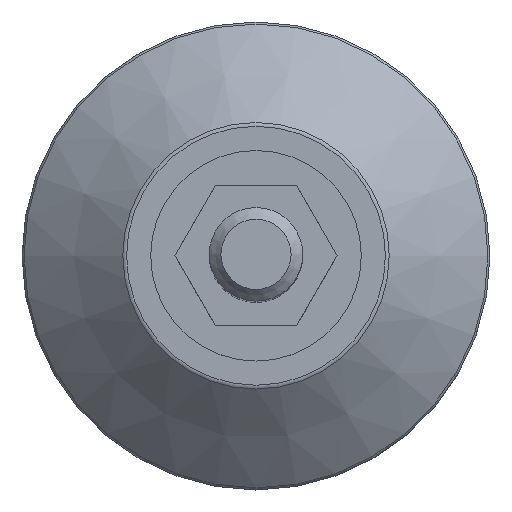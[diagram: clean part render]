
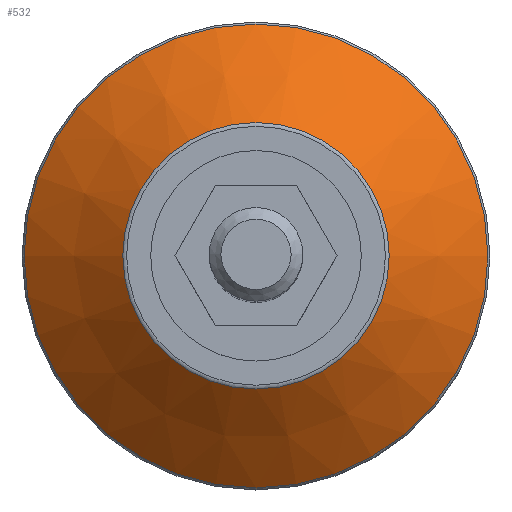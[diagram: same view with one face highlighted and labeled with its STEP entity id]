
A CAD part, top view. The second image highlights one B-rep face of the part: STEP entity #532.
In plain terms, the highlighted conical face has half-angle 49.399 degrees and reference radius 31.216 mm.
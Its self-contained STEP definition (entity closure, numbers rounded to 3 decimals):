
#85=FACE_BOUND('',#202,.T.);
#105=CONICAL_SURFACE('',#617,31.216,49.399);
#132=FACE_OUTER_BOUND('',#201,.T.);
#201=EDGE_LOOP('',(#429));
#202=EDGE_LOOP('',(#430));
#268=CIRCLE('',#616,39.651);
#269=CIRCLE('',#618,22.781);
#311=VERTEX_POINT('',#938);
#312=VERTEX_POINT('',#941);
#360=EDGE_CURVE('',#311,#311,#268,.T.);
#361=EDGE_CURVE('',#312,#312,#269,.T.);
#429=ORIENTED_EDGE('',*,*,#360,.T.);
#430=ORIENTED_EDGE('',*,*,#361,.F.);
#532=ADVANCED_FACE('',(#132,#85),#105,.T.);
#616=AXIS2_PLACEMENT_3D('',#939,#761,#762);
#617=AXIS2_PLACEMENT_3D('',#940,#763,#764);
#618=AXIS2_PLACEMENT_3D('',#942,#765,#766);
#761=DIRECTION('center_axis',(0.,0.,1.));
#762=DIRECTION('ref_axis',(1.,0.,0.));
#763=DIRECTION('center_axis',(0.,0.,-1.));
#764=DIRECTION('ref_axis',(1.,0.,0.));
#765=DIRECTION('center_axis',(0.,0.,1.));
#766=DIRECTION('ref_axis',(1.,0.,0.));
#938=CARTESIAN_POINT('',(-40.551,2.551,-2.201));
#939=CARTESIAN_POINT('Origin',(-0.9,2.551,-2.201));
#940=CARTESIAN_POINT('Origin',(-0.9,2.551,5.029));
#941=CARTESIAN_POINT('',(-23.681,2.551,12.259));
#942=CARTESIAN_POINT('Origin',(-0.9,2.551,12.259));
